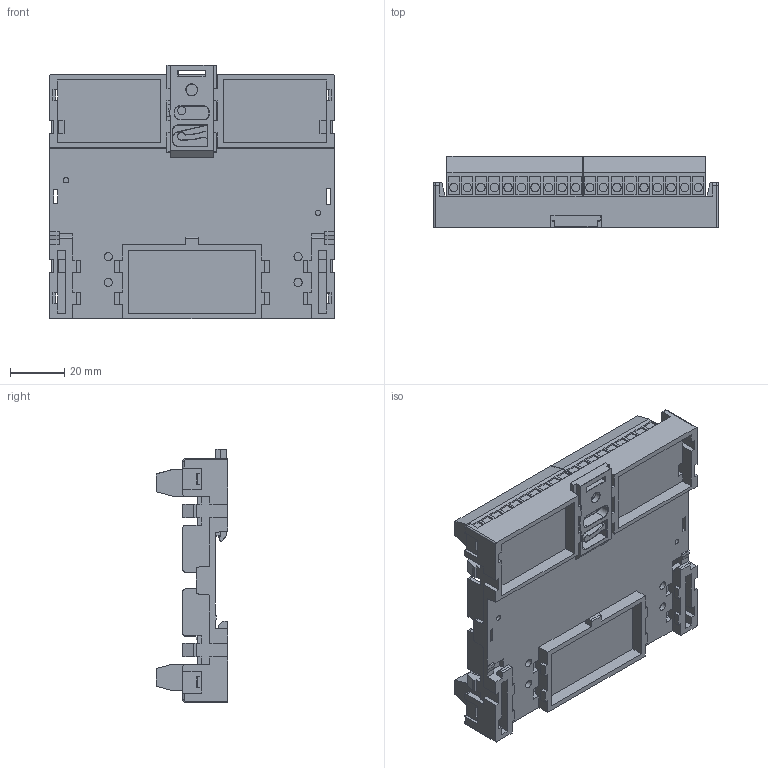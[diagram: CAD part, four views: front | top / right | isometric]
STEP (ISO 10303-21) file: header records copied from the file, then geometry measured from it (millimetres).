
FILE_DESCRIPTION (( 'STEP AP214' ), '1' );
FILE_NAME ('10970-1900-00_3D.STEP', '2014-10-20T13:55:47', ( '' ), ( '' ), 'SwSTEP 2.0', 'SolidWorks 2014', '' );
FILE_SCHEMA (( 'AUTOMOTIVE_DESIGN' ));
Length unit declared in the file: millimetre
Products named in the file (7): 31003110; 31003109; 10970-1900-00_3D_Aufdruck; V-Riegel_3D; V6_Leiterplatte; V6_Unterteil; 10970-1900-00_3D
Assembly tree (8 placements, depth 2):
  10970-1900-00_3D
    V6_Unterteil
    V6_Leiterplatte
    V-Riegel_3D
    10970-1900-00_3D_Aufdruck
    31003109  x3
    31003110
Bounding box: 105 x 26.2 x 93.34 mm (x, y, z)
Volume: 64513.8 mm3; surface area: 66432.5 mm2
Topology: 1075 solids, 1075 shells, 7595 faces, 15885 edges, 10518 vertices
Faces by surface type: plane 5163, cylinder 2301, cone 37, bspline 35, torus 33, sphere 26
Full cylindrical faces by diameter (mm): 1 x37, 2 x2, 2.8 x1, 3 x6, 3.1 x37, 4 x37, 4.2 x1, 4.5 x2
Entity records: 208372 total; most frequent: CARTESIAN_POINT 34604, DIRECTION 34032, ORIENTED_EDGE 30064, EDGE_CURVE 15032, AXIS2_PLACEMENT_3D 11840, LINE 10352, VECTOR 10352, VERTEX_POINT 10035
